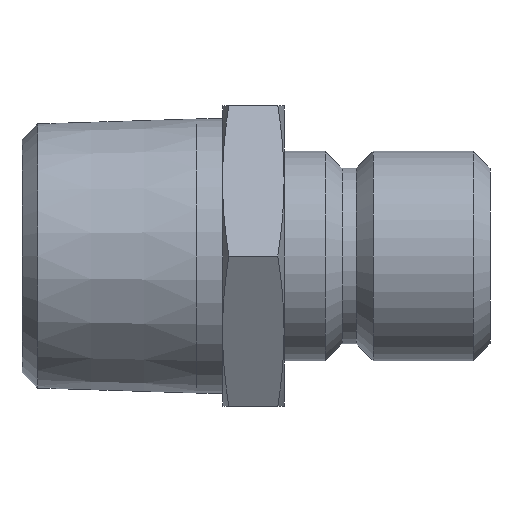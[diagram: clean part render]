
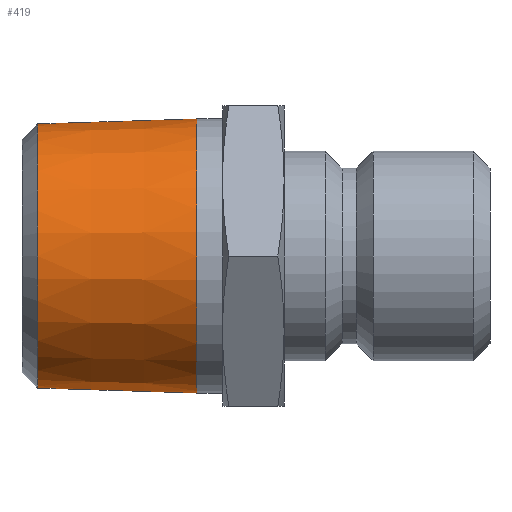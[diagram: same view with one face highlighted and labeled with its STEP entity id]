
A CAD part, front view. The second image highlights one B-rep face of the part: STEP entity #419.
In plain terms, the highlighted conical face has half-angle 1.79 degrees and reference radius 12.544 mm.
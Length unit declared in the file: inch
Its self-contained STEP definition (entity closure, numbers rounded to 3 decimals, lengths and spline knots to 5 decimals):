
#59=CIRCLE('',#476,0.49384);
#60=CIRCLE('',#478,0.5124);
#106=ORIENTED_EDGE('',*,*,#215,.F.);
#107=ORIENTED_EDGE('',*,*,#214,.T.);
#214=EDGE_CURVE('',#261,#261,#59,.T.);
#215=EDGE_CURVE('',#262,#262,#60,.T.);
#261=VERTEX_POINT('',#761);
#262=VERTEX_POINT('',#764);
#312=EDGE_LOOP('',(#106));
#313=EDGE_LOOP('',(#107));
#358=FACE_BOUND('',#312,.T.);
#359=FACE_BOUND('',#313,.T.);
#401=CONICAL_SURFACE('',#477,0.49384,0.031);
#419=ADVANCED_FACE('',(#358,#359),#401,.T.);
#476=AXIS2_PLACEMENT_3D('',#760,#559,#560);
#477=AXIS2_PLACEMENT_3D('',#762,#561,#562);
#478=AXIS2_PLACEMENT_3D('',#763,#563,#564);
#559=DIRECTION('',(1.,0.,0.));
#560=DIRECTION('',(0.,0.,-1.));
#561=DIRECTION('',(1.,0.,0.));
#562=DIRECTION('',(0.,0.,-1.));
#563=DIRECTION('',(1.,0.,0.));
#564=DIRECTION('',(0.,0.,-1.));
#760=CARTESIAN_POINT('',(0.05897,0.,0.));
#761=CARTESIAN_POINT('',(0.05897,0.,-0.49384));
#762=CARTESIAN_POINT('',(0.05897,0.,0.));
#763=CARTESIAN_POINT('',(0.6528,0.,0.));
#764=CARTESIAN_POINT('',(0.6528,0.,-0.5124));
